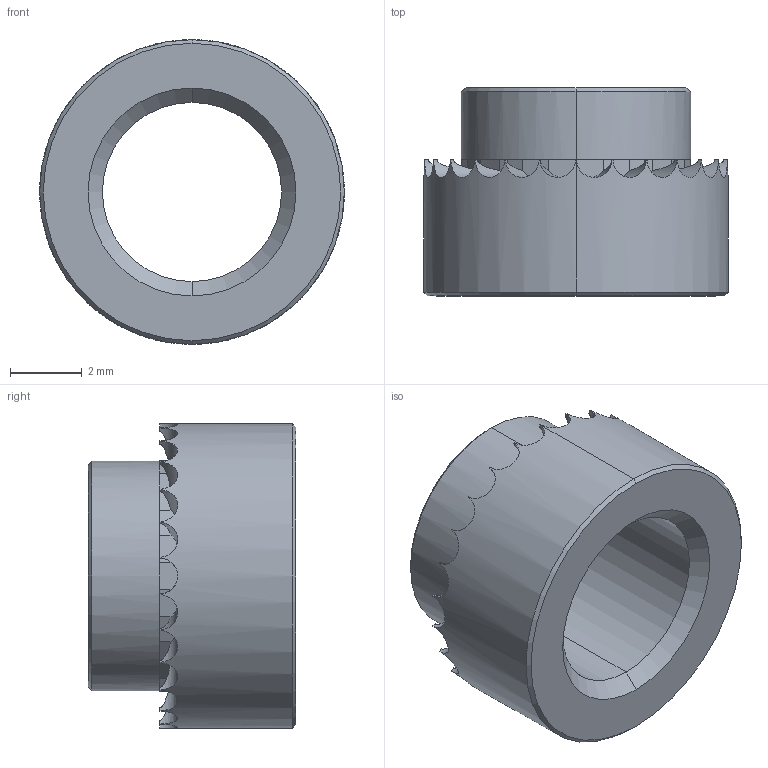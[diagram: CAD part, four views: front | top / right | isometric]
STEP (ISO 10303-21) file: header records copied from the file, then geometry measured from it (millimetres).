
FILE_DESCRIPTION (( 'STEP AP203' ), '1' );
FILE_NAME ('P0829.050-16G-ZP.step', '2019-03-21T22:17:06', ( '' ), ( '' ), 'SwSTEP 2.0', 'SolidWorks 2017', '' );
FILE_SCHEMA (( 'CONFIG_CONTROL_DESIGN' ));
Length unit declared in the file: millimetre
Products named in the file (1): P0829.050-16G-ZP
Bounding box: 8.5 x 5.8 x 8.5 mm (x, y, z)
Volume: 153 mm3; surface area: 303.2 mm2
Topology: 1 solids, 1 shells, 120 faces, 294 edges, 176 vertices
Faces by surface type: plane 80, cylinder 32, cone 8
Entity records: 3739 total; most frequent: CARTESIAN_POINT 903, ORIENTED_EDGE 588, DIRECTION 582, EDGE_CURVE 294, AXIS2_PLACEMENT_3D 219, VERTEX_POINT 176, VECTOR 144, LINE 144
